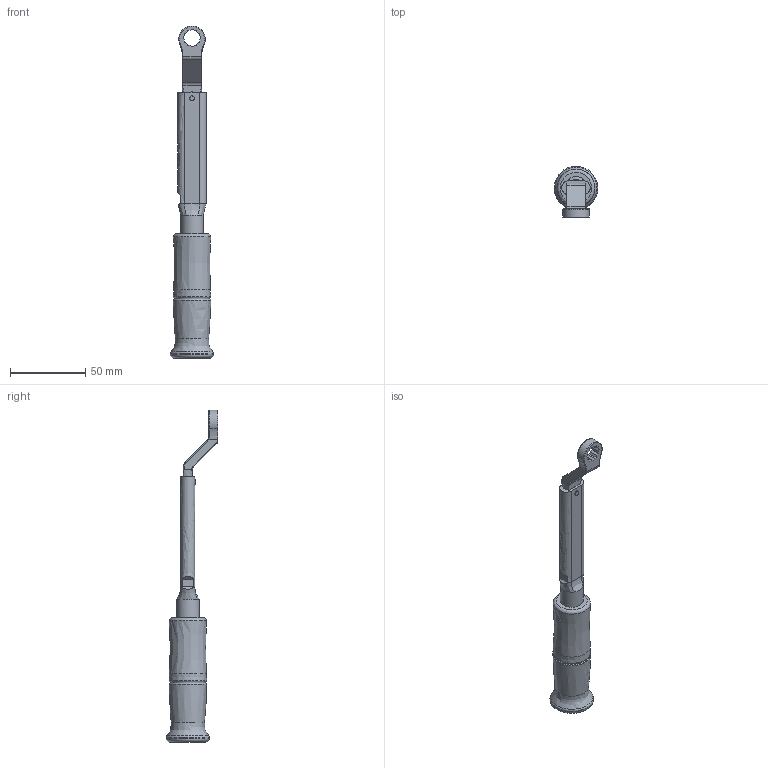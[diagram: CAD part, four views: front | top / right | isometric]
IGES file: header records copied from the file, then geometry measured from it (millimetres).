
Global section: file name: RSP19N2X10; native system: Autodesk Inventor 2017; preprocessor: unknown; author: q603; date: 20170207.182144; units: millimetre
Bounding box: 28.97 x 34.5 x 220.43 mm (x, y, z)
Volume: 170245.2 mm3; surface area: 42212.5 mm2
Topology: 4 solids, 4 shells, 129 faces, 333 edges, 210 vertices
Faces by surface type: bspline 129
